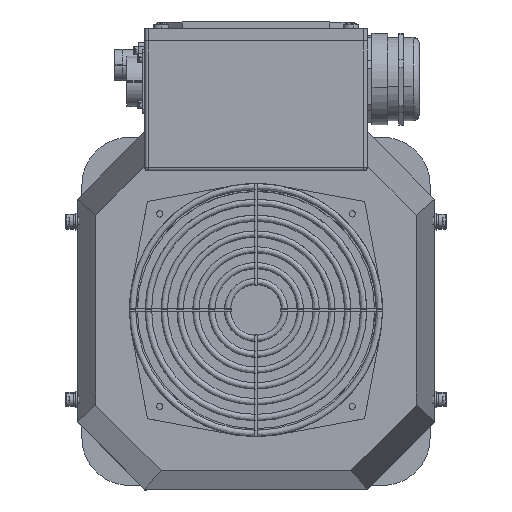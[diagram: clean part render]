
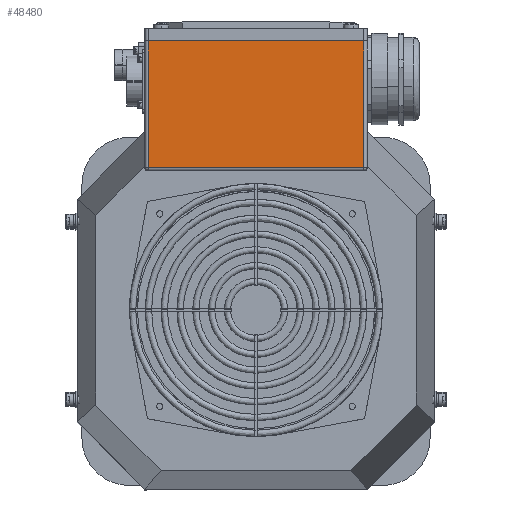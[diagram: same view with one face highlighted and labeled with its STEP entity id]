
A CAD part, top view. The second image highlights one B-rep face of the part: STEP entity #48480.
In plain terms, the highlighted planar face has unit normal (0, 0, 1).
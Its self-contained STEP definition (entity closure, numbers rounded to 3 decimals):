
#1553 = EDGE_CURVE ( 'NONE', #49048, #49940, #41935, .T. ) ;
#2588 = CARTESIAN_POINT ( 'NONE',  ( -68.25, 130., 525. ) ) ;
#10773 = VECTOR ( 'NONE', #40463, 1000. ) ;
#11557 = ORIENTED_EDGE ( 'NONE', *, *, #52697, .T. ) ;
#17107 = CARTESIAN_POINT ( 'NONE',  ( 0., 90., 525. ) ) ;
#19445 = DIRECTION ( 'NONE',  ( 0., 0., -1. ) ) ;
#20346 = CARTESIAN_POINT ( 'NONE',  ( -68.25, 170., 525. ) ) ;
#20721 = AXIS2_PLACEMENT_3D ( 'NONE', #43962, #19445, #37598 ) ;
#21799 = LINE ( 'NONE', #33581, #24742 ) ;
#22793 = CARTESIAN_POINT ( 'NONE',  ( 68.25, 90., 525. ) ) ;
#23456 = CARTESIAN_POINT ( 'NONE',  ( 68.25, 170., 525. ) ) ;
#23809 = EDGE_CURVE ( 'NONE', #32900, #49940, #40659, .T. ) ;
#24742 = VECTOR ( 'NONE', #40487, 1000. ) ;
#25092 = ORIENTED_EDGE ( 'NONE', *, *, #1553, .T. ) ;
#32900 = VERTEX_POINT ( 'NONE', #22793 ) ;
#33581 = CARTESIAN_POINT ( 'NONE',  ( 0., 170., 525. ) ) ;
#37598 = DIRECTION ( 'NONE',  ( 1., 0., 0. ) ) ;
#40463 = DIRECTION ( 'NONE',  ( 0., 1., 0. ) ) ;
#40487 = DIRECTION ( 'NONE',  ( 1., 0., 0. ) ) ;
#40659 = LINE ( 'NONE', #17107, #47515 ) ;
#41935 = LINE ( 'NONE', #2588, #73549 ) ;
#43425 = EDGE_CURVE ( 'NONE', #49048, #63218, #21799, .T. ) ;
#43962 = CARTESIAN_POINT ( 'NONE',  ( -68.25, 170., 525. ) ) ;
#47515 = VECTOR ( 'NONE', #61205, 1000. ) ;
#48079 = ORIENTED_EDGE ( 'NONE', *, *, #23809, .F. ) ;
#48480 = ADVANCED_FACE ( 'NONE', ( #49647 ), #69854, .F. ) ;
#49048 = VERTEX_POINT ( 'NONE', #20346 ) ;
#49647 = FACE_OUTER_BOUND ( 'NONE', #81647, .T. ) ;
#49940 = VERTEX_POINT ( 'NONE', #65390 ) ;
#52697 = EDGE_CURVE ( 'NONE', #32900, #63218, #62021, .T. ) ;
#58967 = CARTESIAN_POINT ( 'NONE',  ( 68.25, 130., 525. ) ) ;
#61205 = DIRECTION ( 'NONE',  ( -1., 0., 0. ) ) ;
#62021 = LINE ( 'NONE', #58967, #10773 ) ;
#63218 = VERTEX_POINT ( 'NONE', #23456 ) ;
#65390 = CARTESIAN_POINT ( 'NONE',  ( -68.25, 90., 525. ) ) ;
#69854 = PLANE ( 'NONE',  #20721 ) ;
#71980 = DIRECTION ( 'NONE',  ( 0., -1., 0. ) ) ;
#73549 = VECTOR ( 'NONE', #71980, 1000. ) ;
#81608 = ORIENTED_EDGE ( 'NONE', *, *, #43425, .F. ) ;
#81647 = EDGE_LOOP ( 'NONE', ( #48079, #11557, #81608, #25092 ) ) ;
